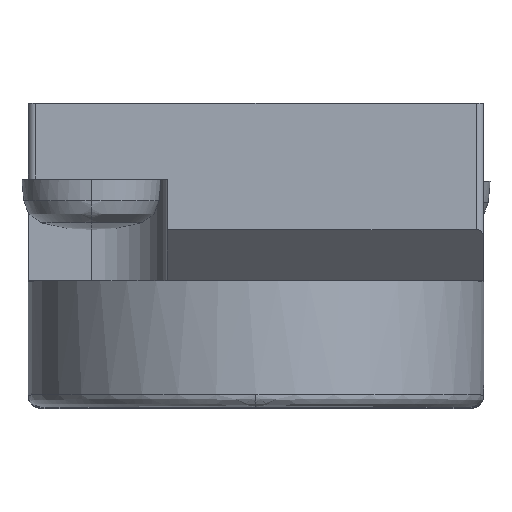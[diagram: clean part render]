
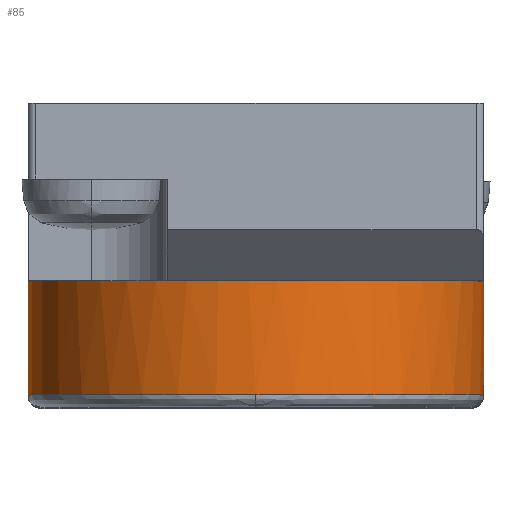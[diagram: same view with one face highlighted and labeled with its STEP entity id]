
A CAD part, top view. The second image highlights one B-rep face of the part: STEP entity #85.
In plain terms, the highlighted cylindrical face has radius 9 mm (diameter 18 mm), a partial arc.
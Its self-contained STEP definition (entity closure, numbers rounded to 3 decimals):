
#85=ADVANCED_FACE('',(#557),#556,.T.);
#556=CYLINDRICAL_SURFACE('',#1042,9.);
#557=FACE_OUTER_BOUND('',#1043,.T.);
#1039=CARTESIAN_POINT('',(-0.002,-1007.,9.502));
#1040=DIRECTION('',(0.,-1.,0.));
#1041=DIRECTION('',(-1.,0.,0.));
#1042=AXIS2_PLACEMENT_3D('',#1039,#1040,#1041);
#1043=EDGE_LOOP('',(#1499,#1500,#1501,#1502,#1503,#1504));
#1499=ORIENTED_EDGE('',*,*,#1589,.F.);
#1500=ORIENTED_EDGE('',*,*,#1661,.T.);
#1501=ORIENTED_EDGE('',*,*,#1722,.T.);
#1502=ORIENTED_EDGE('',*,*,#1709,.T.);
#1503=ORIENTED_EDGE('',*,*,#1713,.T.);
#1504=ORIENTED_EDGE('',*,*,#1723,.F.);
#1589=EDGE_CURVE('',#1839,#1840,#1841,.T.);
#1661=EDGE_CURVE('',#1839,#2319,#2326,.T.);
#1709=EDGE_CURVE('',#2641,#2634,#2642,.T.);
#1713=EDGE_CURVE('',#2634,#2661,#2668,.T.);
#1722=EDGE_CURVE('',#2319,#2641,#2726,.T.);
#1723=EDGE_CURVE('',#1840,#2661,#2732,.T.);
#1839=VERTEX_POINT('',#2949);
#1840=VERTEX_POINT('',#2950);
#1841=(BOUNDED_CURVE() B_SPLINE_CURVE(2,(#2951,#2952,#2953,#2954,#2955),.UNSPECIFIED.,.F.,.F.) B_SPLINE_CURVE_WITH_KNOTS((3,2,3),(0.,0.5,1.),.UNSPECIFIED.) CURVE() GEOMETRIC_REPRESENTATION_ITEM() RATIONAL_B_SPLINE_CURVE((1.,0.71,1.,0.71,1.)) REPRESENTATION_ITEM('') );
#2319=VERTEX_POINT('',#3246);
#2326=CIRCLE('',#3254,9.);
#2634=VERTEX_POINT('',#3437);
#2641=VERTEX_POINT('',#3441);
#2642=CIRCLE('',#3445,9.);
#2661=VERTEX_POINT('',#3455);
#2668=CIRCLE('',#3463,9.);
#2726=(BOUNDED_CURVE() B_SPLINE_CURVE(1,(#3495,#3496),.UNSPECIFIED.,.F.,.F.) B_SPLINE_CURVE_WITH_KNOTS((2,2),(0.34,0.917),.UNSPECIFIED.) CURVE() GEOMETRIC_REPRESENTATION_ITEM() RATIONAL_B_SPLINE_CURVE((1.,1.)) REPRESENTATION_ITEM('') );
#2732=(BOUNDED_CURVE() B_SPLINE_CURVE(1,(#3497,#3498),.UNSPECIFIED.,.F.,.F.) B_SPLINE_CURVE_WITH_KNOTS((2,2),(0.34,0.917),.UNSPECIFIED.) CURVE() GEOMETRIC_REPRESENTATION_ITEM() RATIONAL_B_SPLINE_CURVE((0.75,0.75)) REPRESENTATION_ITEM('') );
#2949=CARTESIAN_POINT('',(-9.,-7.,9.674));
#2950=CARTESIAN_POINT('',(9.,-7.,9.5));
#2951=CARTESIAN_POINT('',(-9.,-7.,9.674));
#2952=CARTESIAN_POINT('',(-8.829,-7.,18.588));
#2953=CARTESIAN_POINT('',(0.085,-7.,18.501));
#2954=CARTESIAN_POINT('',(9.,-7.,18.415));
#2955=CARTESIAN_POINT('',(9.,-7.,9.5));
#3246=CARTESIAN_POINT('',(-9.002,-7.,9.502));
#3251=CARTESIAN_POINT('',(-0.002,-7.,9.502));
#3252=DIRECTION('',(0.,-1.,0.));
#3253=DIRECTION('',(0.,0.,1.));
#3254=AXIS2_PLACEMENT_3D('',#3251,#3252,#3253);
#3437=CARTESIAN_POINT('',(-0.002,-11.5,18.502));
#3441=CARTESIAN_POINT('',(-9.002,-11.5,9.502));
#3442=CARTESIAN_POINT('',(-0.002,-11.5,9.502));
#3443=DIRECTION('',(0.,1.,0.));
#3444=DIRECTION('',(0.,0.,-1.));
#3445=AXIS2_PLACEMENT_3D('',#3442,#3443,#3444);
#3455=CARTESIAN_POINT('',(8.998,-11.5,9.502));
#3460=CARTESIAN_POINT('',(-0.002,-11.5,9.502));
#3461=DIRECTION('',(0.,1.,0.));
#3462=DIRECTION('',(0.,0.,-1.));
#3463=AXIS2_PLACEMENT_3D('',#3460,#3461,#3462);
#3495=CARTESIAN_POINT('',(-9.002,-7.,9.502));
#3496=CARTESIAN_POINT('',(-9.002,-11.5,9.502));
#3497=CARTESIAN_POINT('',(8.998,-7.,9.502));
#3498=CARTESIAN_POINT('',(8.998,-11.5,9.502));
